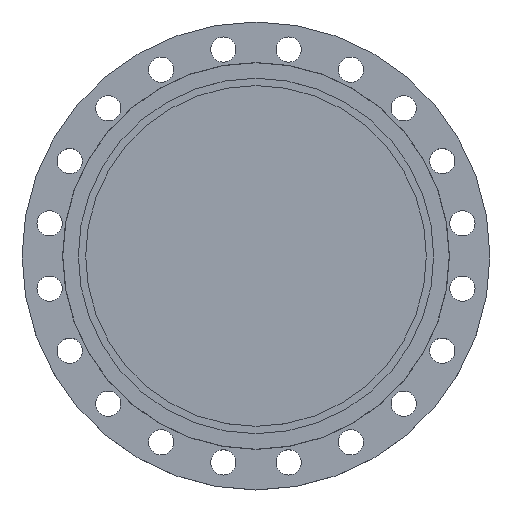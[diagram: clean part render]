
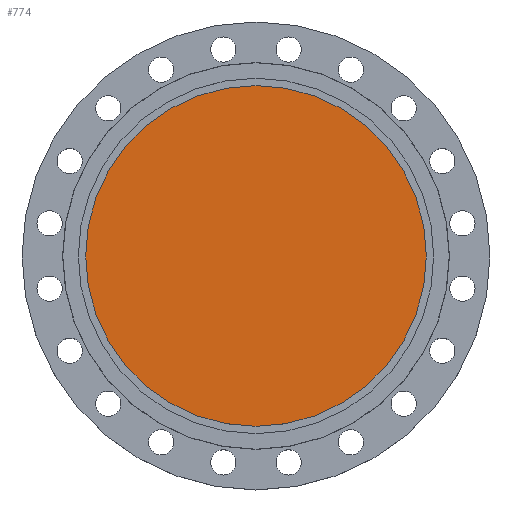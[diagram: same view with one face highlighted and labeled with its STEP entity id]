
A CAD part, top view. The second image highlights one B-rep face of the part: STEP entity #774.
In plain terms, the highlighted planar face has unit normal (0, 0, 1).
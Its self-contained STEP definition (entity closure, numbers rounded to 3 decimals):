
#114 = CARTESIAN_POINT ( 'NONE',  ( 324., 0., 0. ) ) ;
#198 = DIRECTION ( 'NONE',  ( -1., 0., 0. ) ) ;
#199 = DIRECTION ( 'NONE',  ( 0., 0., -1. ) ) ;
#200 = CARTESIAN_POINT ( 'NONE',  ( 0., 0., 0. ) ) ;
#254 = AXIS2_PLACEMENT_3D ( 'NONE', #714, #713, #712 ) ;
#653 = AXIS2_PLACEMENT_3D ( 'NONE', #200, #199, #198 ) ;
#712 = DIRECTION ( 'NONE',  ( -1., 0., 0. ) ) ;
#713 = DIRECTION ( 'NONE',  ( 0., 0., -1. ) ) ;
#714 = CARTESIAN_POINT ( 'NONE',  ( 0., 0., 0. ) ) ;
#774 = ADVANCED_FACE ( 'NONE', ( #893 ), #892, .T. ) ;
#888 = DIRECTION ( 'NONE',  ( 1., 0., 0. ) ) ;
#889 = DIRECTION ( 'NONE',  ( 0., 0., 1. ) ) ;
#891 = CARTESIAN_POINT ( 'NONE',  ( 0., 0., 0. ) ) ;
#892 = PLANE ( 'NONE',  #1698 ) ;
#893 = FACE_OUTER_BOUND ( 'NONE', #1228, .T. ) ;
#955 = CIRCLE ( 'NONE', #254, 324. ) ;
#958 = CIRCLE ( 'NONE', #653, 324. ) ;
#1026 = EDGE_CURVE ( 'NONE', #1897, #1763, #955, .T. ) ;
#1228 = EDGE_LOOP ( 'NONE', ( #1328, #1327 ) ) ;
#1327 = ORIENTED_EDGE ( 'NONE', *, *, #1682, .F. ) ;
#1328 = ORIENTED_EDGE ( 'NONE', *, *, #1026, .F. ) ;
#1682 = EDGE_CURVE ( 'NONE', #1763, #1897, #958, .T. ) ;
#1698 = AXIS2_PLACEMENT_3D ( 'NONE', #891, #889, #888 ) ;
#1763 = VERTEX_POINT ( 'NONE', #114 ) ;
#1897 = VERTEX_POINT ( 'NONE', #1959 ) ;
#1959 = CARTESIAN_POINT ( 'NONE',  ( -324., 0., 0. ) ) ;
